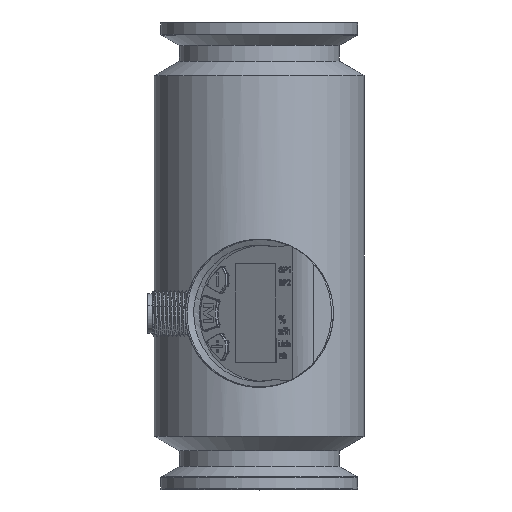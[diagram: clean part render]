
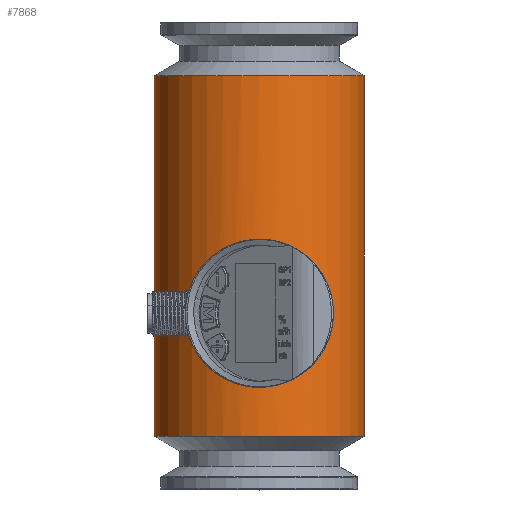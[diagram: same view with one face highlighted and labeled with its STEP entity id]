
A CAD part, top view. The second image highlights one B-rep face of the part: STEP entity #7868.
In plain terms, the highlighted cylindrical face has radius 27 mm (diameter 54 mm), a full revolution.
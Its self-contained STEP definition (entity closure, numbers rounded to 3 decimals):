
#6087=CYLINDRICAL_SURFACE('',#23569,27.);
#6893=B_SPLINE_CURVE_WITH_KNOTS('',3,(#44286,#44287,#44288,#44289,#44290,
#44291),.UNSPECIFIED.,.F.,.F.,(4,2,4),(0.,0.5,1.),.UNSPECIFIED.);
#6894=B_SPLINE_CURVE_WITH_KNOTS('',3,(#44293,#44294,#44295,#44296,#44297,
#44298),.UNSPECIFIED.,.F.,.F.,(4,2,4),(0.,0.5,1.),.UNSPECIFIED.);
#6895=B_SPLINE_CURVE_WITH_KNOTS('',3,(#44299,#44300,#44301,#44302,#44303,
#44304),.UNSPECIFIED.,.F.,.F.,(4,2,4),(0.,0.5,1.),.UNSPECIFIED.);
#6896=B_SPLINE_CURVE_WITH_KNOTS('',3,(#44306,#44307,#44308,#44309,#44310,
#44311),.UNSPECIFIED.,.F.,.F.,(4,2,4),(0.,0.5,1.),.UNSPECIFIED.);
#7868=ADVANCED_FACE('',(#8775,#8776,#8777),#6087,.T.);
#8775=FACE_BOUND('',#10024,.T.);
#8776=FACE_BOUND('',#10025,.T.);
#8777=FACE_BOUND('',#10026,.T.);
#10024=EDGE_LOOP('',(#15439));
#10025=EDGE_LOOP('',(#15440));
#10026=EDGE_LOOP('',(#15441,#15442,#15443,#15444,#15445,#15446));
#10742=CIRCLE('',#23567,27.);
#10743=CIRCLE('',#23568,27.);
#15439=ORIENTED_EDGE('',*,*,#19753,.T.);
#15440=ORIENTED_EDGE('',*,*,#19754,.T.);
#15441=ORIENTED_EDGE('',*,*,#19751,.T.);
#15442=ORIENTED_EDGE('',*,*,#19755,.T.);
#15443=ORIENTED_EDGE('',*,*,#19756,.T.);
#15444=ORIENTED_EDGE('',*,*,#19749,.T.);
#15445=ORIENTED_EDGE('',*,*,#19757,.T.);
#15446=ORIENTED_EDGE('',*,*,#19758,.T.);
#17342=VERTEX_POINT('',#44274);
#17343=VERTEX_POINT('',#44275);
#17344=VERTEX_POINT('',#44277);
#17345=VERTEX_POINT('',#44279);
#17346=VERTEX_POINT('',#44283);
#17347=VERTEX_POINT('',#44285);
#17348=VERTEX_POINT('',#44292);
#17349=VERTEX_POINT('',#44305);
#19749=EDGE_CURVE('',#17342,#17343,#20905,.T.);
#19751=EDGE_CURVE('',#17345,#17344,#20906,.T.);
#19753=EDGE_CURVE('',#17346,#17346,#10742,.T.);
#19754=EDGE_CURVE('',#17347,#17347,#10743,.T.);
#19755=EDGE_CURVE('',#17344,#17348,#6893,.T.);
#19756=EDGE_CURVE('',#17348,#17342,#6894,.T.);
#19757=EDGE_CURVE('',#17343,#17349,#6895,.T.);
#19758=EDGE_CURVE('',#17349,#17345,#6896,.T.);
#20905=LINE('',#44273,#22099);
#20906=LINE('',#44278,#22100);
#22099=VECTOR('',#27775,1.);
#22100=VECTOR('',#27778,1.);
#23567=AXIS2_PLACEMENT_3D('',#44282,#27783,#27784);
#23568=AXIS2_PLACEMENT_3D('',#44284,#27785,#27786);
#23569=AXIS2_PLACEMENT_3D('',#44312,#27787,#27788);
#27775=DIRECTION('',(0.,-1.,0.));
#27778=DIRECTION('',(0.,1.,0.));
#27783=DIRECTION('',(0.,-1.,0.));
#27784=DIRECTION('',(-1.,0.,0.));
#27785=DIRECTION('',(0.,1.,0.));
#27786=DIRECTION('',(1.,0.,0.));
#27787=DIRECTION('',(0.,1.,0.));
#27788=DIRECTION('',(1.,0.,0.));
#44273=CARTESIAN_POINT('',(35.714,-70.6,-96.224));
#44274=CARTESIAN_POINT('',(35.714,43.606,-96.224));
#44275=CARTESIAN_POINT('',(35.714,29.194,-96.224));
#44277=CARTESIAN_POINT('',(15.318,43.65,-96.224));
#44278=CARTESIAN_POINT('',(15.318,-70.6,-96.224));
#44279=CARTESIAN_POINT('',(15.318,29.15,-96.224));
#44282=CARTESIAN_POINT('',(25.516,97.647,-121.224));
#44283=CARTESIAN_POINT('',(-1.484,97.647,-121.224));
#44284=CARTESIAN_POINT('',(25.516,5.153,-121.224));
#44285=CARTESIAN_POINT('',(52.516,5.153,-121.224));
#44286=CARTESIAN_POINT('',(15.318,43.65,-96.224));
#44287=CARTESIAN_POINT('',(16.265,45.647,-95.838));
#44288=CARTESIAN_POINT('',(17.609,47.413,-95.346));
#44289=CARTESIAN_POINT('',(21.084,50.058,-94.531));
#44290=CARTESIAN_POINT('',(23.26,50.902,-94.224));
#44291=CARTESIAN_POINT('',(25.516,50.9,-94.224));
#44292=CARTESIAN_POINT('',(25.516,50.9,-94.224));
#44293=CARTESIAN_POINT('',(25.516,50.9,-94.224));
#44294=CARTESIAN_POINT('',(27.773,50.898,-94.224));
#44295=CARTESIAN_POINT('',(29.933,50.059,-94.528));
#44296=CARTESIAN_POINT('',(33.434,47.384,-95.349));
#44297=CARTESIAN_POINT('',(34.771,45.609,-95.84));
#44298=CARTESIAN_POINT('',(35.714,43.606,-96.224));
#44299=CARTESIAN_POINT('',(35.714,29.194,-96.224));
#44300=CARTESIAN_POINT('',(34.771,27.19,-95.84));
#44301=CARTESIAN_POINT('',(33.429,25.415,-95.348));
#44302=CARTESIAN_POINT('',(29.955,22.755,-94.532));
#44303=CARTESIAN_POINT('',(27.776,21.902,-94.224));
#44304=CARTESIAN_POINT('',(25.516,21.9,-94.224));
#44305=CARTESIAN_POINT('',(25.516,21.9,-94.224));
#44306=CARTESIAN_POINT('',(25.516,21.9,-94.224));
#44307=CARTESIAN_POINT('',(23.263,21.898,-94.224));
#44308=CARTESIAN_POINT('',(21.105,22.728,-94.526));
#44309=CARTESIAN_POINT('',(17.604,25.388,-95.347));
#44310=CARTESIAN_POINT('',(16.264,27.154,-95.838));
#44311=CARTESIAN_POINT('',(15.318,29.15,-96.224));
#44312=CARTESIAN_POINT('',(25.516,-70.6,-121.224));
